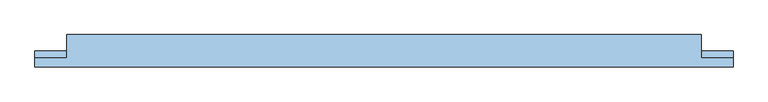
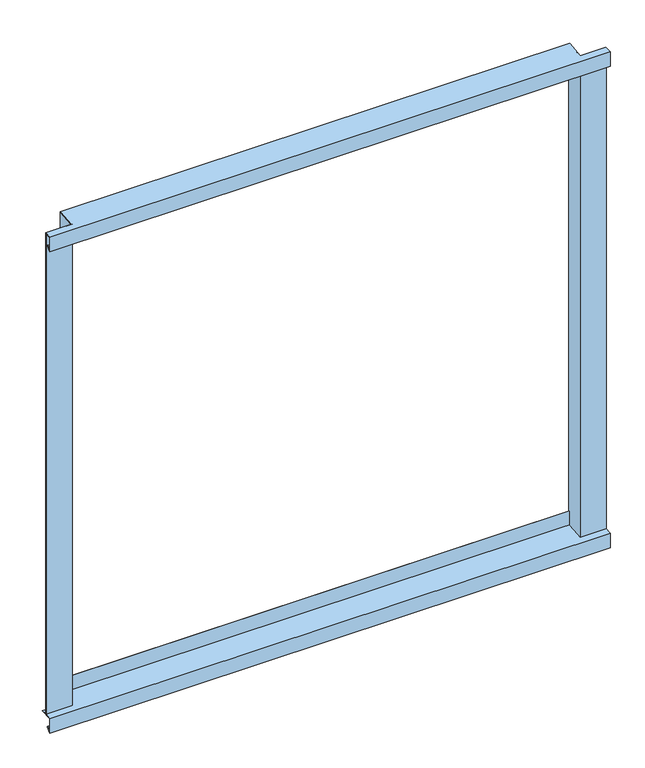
"""IFC4 building model written with IfcOpenShell, lengths in millimetres: window geometry, ATELIERS 3S_Entourage de baie_LoD 100 : ATELIERS 3S_Entourage de baie_LoD 100."""

from ifc_helpers import new_model, si_unit, origin, place, context, project, spatial, faceted_brep, source, transform, mapped, element, save


def window_55b17f8c(model_context):
    return source(origin(), model_context, "Body", "Brep", [
        faceted_brep([(541.8113433, -249.0, 1095.6255668), (541.8113433, -224.5699477, 1097.7629194), (541.8113433, -236.0, 1097.7629194), (541.8113433, -250.0, 1096.5380782), (541.8113433, -250.0, 1066.5380782), (541.8113433, -241.5147186, 1075.0233595), (541.8113433, -242.2218254, 1075.7304663), (541.8113433, -249.0, 1068.9522917), (-558.1886567, -250.0, 1096.5380782), (-558.1886567, -236.0, 1097.7629194), (-558.1886567, -224.5699477, 1097.7629194), (-558.1886567, -249.0, 1095.6255668), (-558.1886567, -249.0, 1068.9522917), (-558.1886567, -242.2218254, 1075.7304663), (-558.1886567, -241.5147186, 1075.0233595), (-558.1886567, -250.0, 1066.5380782), (491.8113433, -236.0, 1097.7629194), (491.8113433, -200.0, 1100.9125113), (-508.1886567, -200.0, 1100.9125113), (-508.1886567, -236.0, 1097.7629194), (491.8113433, -200.0, 1130.0), (-508.1886567, -200.0, 1130.0), (491.8113433, -199.0, 1130.0), (-508.1886567, -199.0, 1130.0), (491.8113433, -199.0, 1100.0), (-508.1886567, -199.0, 1100.0), (-508.1886567, -224.5699477, 1097.7629194), (491.8113433, -224.5699477, 1097.7629194)], [[[0, 1, 2, 3, 4, 5, 6, 7]], [[8, 9, 10, 11, 12, 13, 14, 15]], [[7, 12, 11, 0]], [[6, 13, 12, 7]], [[5, 14, 13, 6]], [[4, 15, 14, 5]], [[3, 8, 15, 4]], [[3, 2, 16, 17, 18, 19, 9, 8]], [[17, 20, 21, 18]], [[20, 22, 23, 21]], [[22, 24, 25, 23]], [[11, 10, 26, 25, 24, 27, 1, 0]], [[16, 2, 1, 27]], [[26, 10, 9, 19]], [[19, 18, 21, 23, 25, 26]], [[27, 24, 22, 20, 17, 16]]]),
        faceted_brep([(541.8113433, -249.0, 2094.621747), (541.8113433, -236.0, 2095.7590996), (541.8113433, -236.0, 2096.7629194), (541.8113433, -250.0, 2095.5380782), (541.8113433, -250.0, 2065.5424632), (541.8113433, -241.5147186, 2074.0277446), (541.8113433, -242.2218254, 2074.7348514), (541.8113433, -249.0, 2067.9566768), (-558.1886567, -250.0, 2095.5380782), (-558.1886567, -236.0, 2096.7629194), (-558.1886567, -236.0, 2095.7590996), (-558.1886567, -249.0, 2094.621747), (-558.1886567, -249.0, 2067.9566768), (-558.1886567, -242.2218254, 2074.7348514), (-558.1886567, -241.5147186, 2074.0277446), (-558.1886567, -250.0, 2065.5424632), (491.8113433, -199.0, 2100.0), (491.8113433, -199.0, 2098.9961802), (-508.1886567, -199.0, 2098.9961802), (-508.1886567, -199.0, 2100.0), (-508.1886567, -236.0, 2096.7629194), (-508.1886567, -236.0, 2095.7590996), (491.8113433, -236.0, 2095.7590996), (491.8113433, -236.0, 2096.7629194)], [[[0, 1, 2, 3, 4, 5, 6, 7]], [[8, 9, 10, 11, 12, 13, 14, 15]], [[16, 17, 18, 19]], [[7, 12, 11, 0]], [[6, 13, 12, 7]], [[5, 14, 13, 6]], [[4, 15, 14, 5]], [[3, 8, 15, 4]], [[20, 19, 18, 21]], [[21, 10, 9, 20]], [[22, 17, 16, 23]], [[23, 2, 1, 22]], [[11, 10, 21, 18, 17, 22, 1, 0]], [[3, 2, 23, 16, 19, 20, 9, 8]]]),
        faceted_brep([(-558.1886567, -237.0, 1097.7629194), (-558.1886567, -236.0, 1097.7629194), (-508.1886567, -236.0, 1097.7629194), (-508.1886567, -224.5699477, 1097.7629194), (-506.9141728, -224.5699477, 1097.7629194), (-506.9141728, -237.0, 1097.7629194), (-558.1886567, -237.0, 2096.6754308), (-558.1886567, -236.0, 2096.7629194), (-508.1886567, -236.0, 2096.7629194), (-508.1886567, -199.0, 2100.0), (-508.1886567, -199.0, 1100.0), (-506.9141728, -199.0, 2100.0), (-506.9141728, -199.0, 1100.0), (-506.9141728, -237.0, 2096.6754308)], [[[0, 1, 2, 3, 4, 5]], [[0, 6, 7, 1]], [[1, 7, 8, 2]], [[2, 8, 9, 10, 3]], [[9, 11, 12, 10]], [[4, 12, 11, 13, 5]], [[5, 13, 6, 0]], [[6, 13, 11, 9, 8, 7]], [[3, 10, 12, 4]]]),
        faceted_brep([(490.5368593, -237.0, 1097.7629194), (490.5368593, -224.5699477, 1097.7629194), (491.8113433, -224.5699477, 1097.7629194), (491.8113433, -236.0, 1097.7629194), (541.8113433, -236.0, 1097.7629194), (541.8113433, -237.0, 1097.7629194), (491.8113433, -236.0, 2096.7629194), (541.8113433, -236.0, 2096.7629194), (541.8113433, -237.0, 2096.6754308), (490.5368593, -237.0, 2096.6754308), (490.5368593, -199.0, 2100.0), (490.5368593, -199.0, 1100.0), (491.8113433, -199.0, 2100.0), (491.8113433, -199.0, 1100.0)], [[[0, 1, 2, 3, 4, 5]], [[3, 6, 7, 4]], [[4, 7, 8, 5]], [[5, 8, 9, 0]], [[0, 9, 10, 11, 1]], [[10, 12, 13, 11]], [[2, 13, 12, 6, 3]], [[6, 12, 10, 9, 8, 7]], [[1, 11, 13, 2]]]),
    ])


if __name__ == "__main__":
    model = new_model("IFC4")
    model_context = context("Model", 3, world=origin())
    ifc_project = project(units=[si_unit("LENGTHUNIT", "METRE", prefix="MILLI")], contexts=[model_context])
    site = spatial("IfcSite", under=ifc_project)
    building = spatial("IfcBuilding", under=site)
    placement = place(None, origin())
    window_shape = window_55b17f8c(model_context)
    element("IfcWindow", 1, ObjectType="ATELIERS 3S_Entourage de baie_LoD 100 : ATELIERS 3S_Entourage de baie_LoD 100", at=placement, inside=building, context=model_context, shape_type="MappedRepresentation", body=[
        mapped(window_shape, transform((0.0, 0.0, 0.0), x_axis=(1.0, 0.0, 0.0), y_axis=(0.0, 1.0, 0.0), z_axis=(0.0, 0.0, 1.0))),
    ])
    save(model, "model.ifc")
